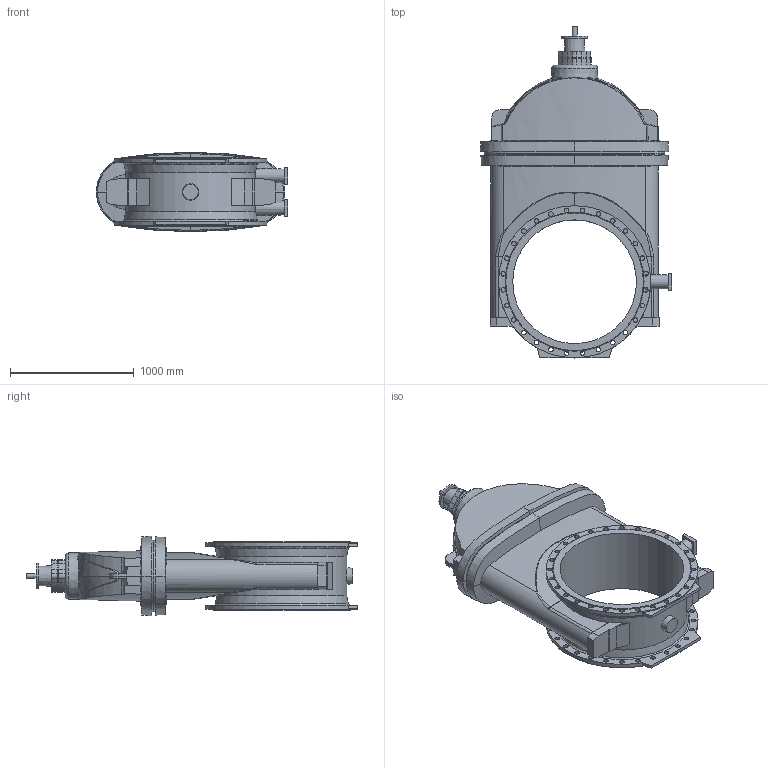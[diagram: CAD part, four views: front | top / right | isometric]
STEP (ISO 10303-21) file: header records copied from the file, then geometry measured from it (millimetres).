
FILE_DESCRIPTION (( 'STEP AP203' ), '1' );
FILE_NAME ('O_06_30_DN1000_09043164_AA0.step', '2018-08-20T05:52:02', ( 'Windows User' ), ( 'AVK' ), 'SwSTEP 2.0', 'SolidWorks 2012', '' );
FILE_SCHEMA (( 'CONFIG_CONTROL_DESIGN' ));
Length unit declared in the file: millimetre
Products named in the file (1): O_06_30_DN1000_09043164_AA0
Bounding box: 1547.5 x 2682.25 x 642.5 mm (x, y, z)
Volume: 704398523.9 mm3; surface area: 10735303.1 mm2
Topology: 1 solids, 1 shells, 359 faces, 1044 edges, 698 vertices
Faces by surface type: plane 150, cylinder 109, bspline 51, cone 46, torus 3
Full cylindrical faces by diameter (mm): 23 x4, 37 x56, 40 x1, 210 x1, 1000 x1, 1230 x2
Entity records: 15719 total; most frequent: CARTESIAN_POINT 7107, ORIENTED_EDGE 1800, DIRECTION 1554, EDGE_CURVE 900, VERTEX_POINT 632, AXIS2_PLACEMENT_3D 613, EDGE_LOOP 570, FACE_OUTER_BOUND 427
